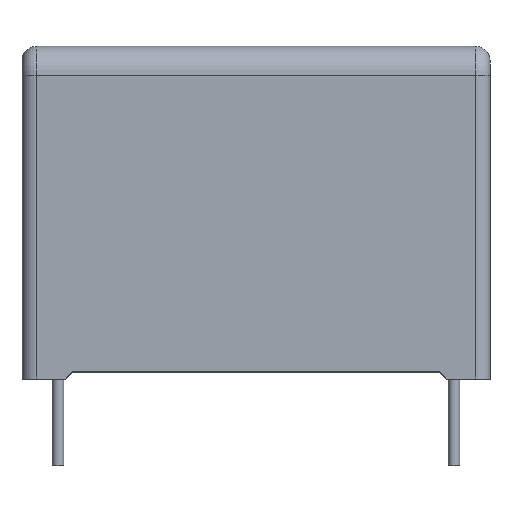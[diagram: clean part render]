
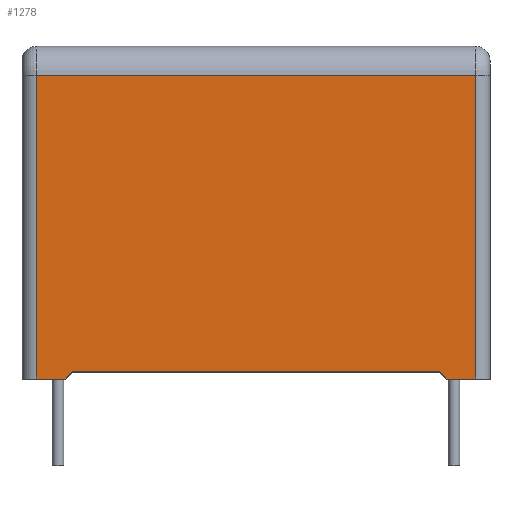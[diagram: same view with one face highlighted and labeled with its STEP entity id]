
A CAD part, top view. The second image highlights one B-rep face of the part: STEP entity #1278.
In plain terms, the highlighted planar face has unit normal (0, 0, 1).
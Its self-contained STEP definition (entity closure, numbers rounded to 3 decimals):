
#3 = ORIENTED_EDGE ( 'NONE', *, *, #3084, .T. ) ;
#14 = CARTESIAN_POINT ( 'NONE',  ( -13.25, 0., 6.75 ) ) ;
#219 = EDGE_CURVE ( 'NONE', #2788, #1117, #1113, .T. ) ;
#272 = CARTESIAN_POINT ( 'NONE',  ( -15.25, 21.1, 6.75 ) ) ;
#283 = ORIENTED_EDGE ( 'NONE', *, *, #695, .T. ) ;
#294 = EDGE_CURVE ( 'NONE', #1117, #3739, #2583, .T. ) ;
#411 = LINE ( 'NONE', #3074, #2934 ) ;
#509 = VECTOR ( 'NONE', #2308, 1000. ) ;
#571 = VERTEX_POINT ( 'NONE', #272 ) ;
#632 = CARTESIAN_POINT ( 'NONE',  ( 12.75, 0.5, 6.75 ) ) ;
#695 = EDGE_CURVE ( 'NONE', #3119, #3739, #411, .T. ) ;
#702 = ORIENTED_EDGE ( 'NONE', *, *, #1698, .F. ) ;
#776 = LINE ( 'NONE', #4031, #1910 ) ;
#892 = ORIENTED_EDGE ( 'NONE', *, *, #1297, .T. ) ;
#912 = CARTESIAN_POINT ( 'NONE',  ( 15.25, 21.1, 6.75 ) ) ;
#985 = ORIENTED_EDGE ( 'NONE', *, *, #1099, .T. ) ;
#1099 = EDGE_CURVE ( 'NONE', #571, #3119, #776, .T. ) ;
#1113 = LINE ( 'NONE', #2270, #509 ) ;
#1117 = VERTEX_POINT ( 'NONE', #3923 ) ;
#1278 = ADVANCED_FACE ( 'NONE', ( #4175 ), #3327, .F. ) ;
#1297 = EDGE_CURVE ( 'NONE', #2007, #571, #4165, .T. ) ;
#1325 = VERTEX_POINT ( 'NONE', #3149 ) ;
#1395 = ORIENTED_EDGE ( 'NONE', *, *, #219, .F. ) ;
#1470 = CARTESIAN_POINT ( 'NONE',  ( -15.25, 0., 6.75 ) ) ;
#1484 = EDGE_CURVE ( 'NONE', #1325, #2007, #4051, .T. ) ;
#1598 = AXIS2_PLACEMENT_3D ( 'NONE', #3350, #3325, #3318 ) ;
#1606 = CARTESIAN_POINT ( 'NONE',  ( 13.25, 0., 6.75 ) ) ;
#1628 = VECTOR ( 'NONE', #2015, 1000. ) ;
#1698 = EDGE_CURVE ( 'NONE', #3999, #2788, #3912, .T. ) ;
#1882 = DIRECTION ( 'NONE',  ( -0.707, 0.707, 0. ) ) ;
#1910 = VECTOR ( 'NONE', #3956, 1000. ) ;
#1938 = CARTESIAN_POINT ( 'NONE',  ( 12.75, 0.5, 6.75 ) ) ;
#2007 = VERTEX_POINT ( 'NONE', #912 ) ;
#2015 = DIRECTION ( 'NONE',  ( -0.707, -0.707, 0. ) ) ;
#2045 = CARTESIAN_POINT ( 'NONE',  ( -13.25, 0., 6.75 ) ) ;
#2086 = EDGE_LOOP ( 'NONE', ( #1395, #702, #3, #2408, #892, #985, #283, #3775 ) ) ;
#2270 = CARTESIAN_POINT ( 'NONE',  ( -12.75, 0.5, 6.75 ) ) ;
#2308 = DIRECTION ( 'NONE',  ( -1., 0., 0. ) ) ;
#2408 = ORIENTED_EDGE ( 'NONE', *, *, #1484, .T. ) ;
#2583 = LINE ( 'NONE', #2045, #1628 ) ;
#2715 = DIRECTION ( 'NONE',  ( 0., 1., 0. ) ) ;
#2719 = CARTESIAN_POINT ( 'NONE',  ( 15.25, 23.1, 6.75 ) ) ;
#2788 = VERTEX_POINT ( 'NONE', #632 ) ;
#2934 = VECTOR ( 'NONE', #3562, 1000. ) ;
#3037 = VECTOR ( 'NONE', #3521, 1000. ) ;
#3044 = LINE ( 'NONE', #3501, #3037 ) ;
#3074 = CARTESIAN_POINT ( 'NONE',  ( -16.25, 0., 6.75 ) ) ;
#3084 = EDGE_CURVE ( 'NONE', #3999, #1325, #3044, .T. ) ;
#3119 = VERTEX_POINT ( 'NONE', #1470 ) ;
#3149 = CARTESIAN_POINT ( 'NONE',  ( 15.25, 0., 6.75 ) ) ;
#3293 = DIRECTION ( 'NONE',  ( -1., 0., 0. ) ) ;
#3306 = CARTESIAN_POINT ( 'NONE',  ( -16.25, 21.1, 6.75 ) ) ;
#3318 = DIRECTION ( 'NONE',  ( -1., 0., 0. ) ) ;
#3325 = DIRECTION ( 'NONE',  ( 0., 0., -1. ) ) ;
#3327 = PLANE ( 'NONE',  #1598 ) ;
#3350 = CARTESIAN_POINT ( 'NONE',  ( -16.25, 23.1, 6.75 ) ) ;
#3501 = CARTESIAN_POINT ( 'NONE',  ( -16.25, 0., 6.75 ) ) ;
#3521 = DIRECTION ( 'NONE',  ( 1., 0., 0. ) ) ;
#3562 = DIRECTION ( 'NONE',  ( 1., 0., 0. ) ) ;
#3739 = VERTEX_POINT ( 'NONE', #14 ) ;
#3775 = ORIENTED_EDGE ( 'NONE', *, *, #294, .F. ) ;
#3901 = VECTOR ( 'NONE', #1882, 1000. ) ;
#3912 = LINE ( 'NONE', #1938, #3901 ) ;
#3923 = CARTESIAN_POINT ( 'NONE',  ( -12.75, 0.5, 6.75 ) ) ;
#3956 = DIRECTION ( 'NONE',  ( 0., -1., 0. ) ) ;
#3999 = VERTEX_POINT ( 'NONE', #1606 ) ;
#4031 = CARTESIAN_POINT ( 'NONE',  ( -15.25, 23.1, 6.75 ) ) ;
#4051 = LINE ( 'NONE', #2719, #4085 ) ;
#4085 = VECTOR ( 'NONE', #2715, 1000. ) ;
#4165 = LINE ( 'NONE', #3306, #4179 ) ;
#4175 = FACE_OUTER_BOUND ( 'NONE', #2086, .T. ) ;
#4179 = VECTOR ( 'NONE', #3293, 1000. ) ;
